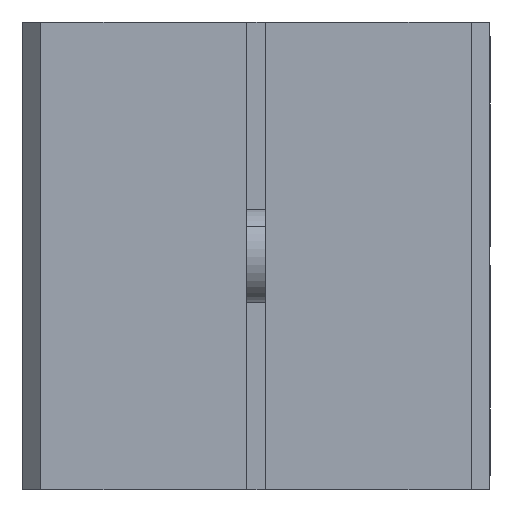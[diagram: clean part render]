
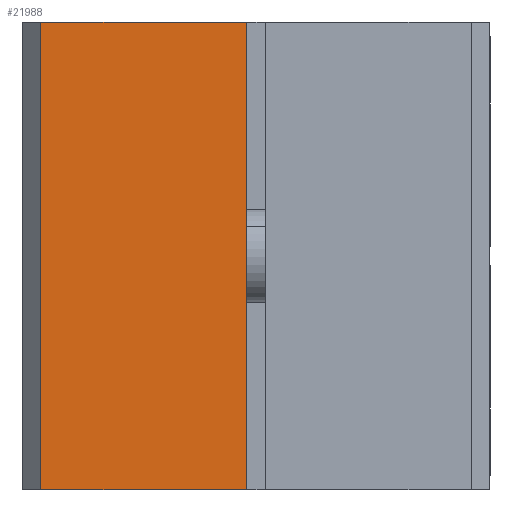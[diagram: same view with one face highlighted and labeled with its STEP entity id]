
A CAD part, left-side view. The second image highlights one B-rep face of the part: STEP entity #21988.
In plain terms, the highlighted planar face has unit normal (-1, 0, 0).
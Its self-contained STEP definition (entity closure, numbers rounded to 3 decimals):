
#128 = DIRECTION ( 'NONE',  ( 1., 0., 0. ) ) ;
#756 = CARTESIAN_POINT ( 'NONE',  ( -117.507, 33.474, -12.5 ) ) ;
#1070 = CARTESIAN_POINT ( 'NONE',  ( -117.507, 44.474, -12.5 ) ) ;
#1437 = LINE ( 'NONE', #15821, #15054 ) ;
#2313 = CARTESIAN_POINT ( 'NONE',  ( -117.507, 33.474, 0. ) ) ;
#2533 = LINE ( 'NONE', #5952, #16144 ) ;
#2541 = VECTOR ( 'NONE', #16500, 1000. ) ;
#3205 = ORIENTED_EDGE ( 'NONE', *, *, #5550, .T. ) ;
#3653 = PLANE ( 'NONE',  #21305 ) ;
#5228 = CARTESIAN_POINT ( 'NONE',  ( -117.507, 32.974, -12.5 ) ) ;
#5550 = EDGE_CURVE ( 'NONE', #18951, #20734, #2533, .T. ) ;
#5952 = CARTESIAN_POINT ( 'NONE',  ( -117.507, 44.474, 0. ) ) ;
#7856 = LINE ( 'NONE', #2313, #2541 ) ;
#8501 = EDGE_CURVE ( 'NONE', #14257, #18951, #1437, .T. ) ;
#10508 = LINE ( 'NONE', #5228, #12993 ) ;
#10672 = ORIENTED_EDGE ( 'NONE', *, *, #13716, .T. ) ;
#10769 = CARTESIAN_POINT ( 'NONE',  ( -117.507, 33.474, 12.5 ) ) ;
#11699 = CARTESIAN_POINT ( 'NONE',  ( -117.507, 44.474, 12.5 ) ) ;
#12226 = VERTEX_POINT ( 'NONE', #756 ) ;
#12301 = EDGE_LOOP ( 'NONE', ( #10672, #12907, #17978, #3205 ) ) ;
#12560 = DIRECTION ( 'NONE',  ( 0., 0., -1. ) ) ;
#12907 = ORIENTED_EDGE ( 'NONE', *, *, #21528, .F. ) ;
#12993 = VECTOR ( 'NONE', #13987, 1000. ) ;
#13716 = EDGE_CURVE ( 'NONE', #20734, #12226, #10508, .T. ) ;
#13987 = DIRECTION ( 'NONE',  ( 0., -1., 0. ) ) ;
#14257 = VERTEX_POINT ( 'NONE', #22852 ) ;
#15054 = VECTOR ( 'NONE', #22942, 1000. ) ;
#15821 = CARTESIAN_POINT ( 'NONE',  ( -117.507, 32.974, 12.5 ) ) ;
#16144 = VECTOR ( 'NONE', #16561, 1000. ) ;
#16500 = DIRECTION ( 'NONE',  ( 0., 0., -1. ) ) ;
#16561 = DIRECTION ( 'NONE',  ( 0., 0., -1. ) ) ;
#17978 = ORIENTED_EDGE ( 'NONE', *, *, #8501, .T. ) ;
#18951 = VERTEX_POINT ( 'NONE', #11699 ) ;
#20734 = VERTEX_POINT ( 'NONE', #1070 ) ;
#21305 = AXIS2_PLACEMENT_3D ( 'NONE', #10769, #128, #12560 ) ;
#21528 = EDGE_CURVE ( 'NONE', #14257, #12226, #7856, .T. ) ;
#21685 = FACE_OUTER_BOUND ( 'NONE', #12301, .T. ) ;
#21988 = ADVANCED_FACE ( 'NONE', ( #21685 ), #3653, .F. ) ;
#22852 = CARTESIAN_POINT ( 'NONE',  ( -117.507, 33.474, 12.5 ) ) ;
#22942 = DIRECTION ( 'NONE',  ( 0., 1., 0. ) ) ;
